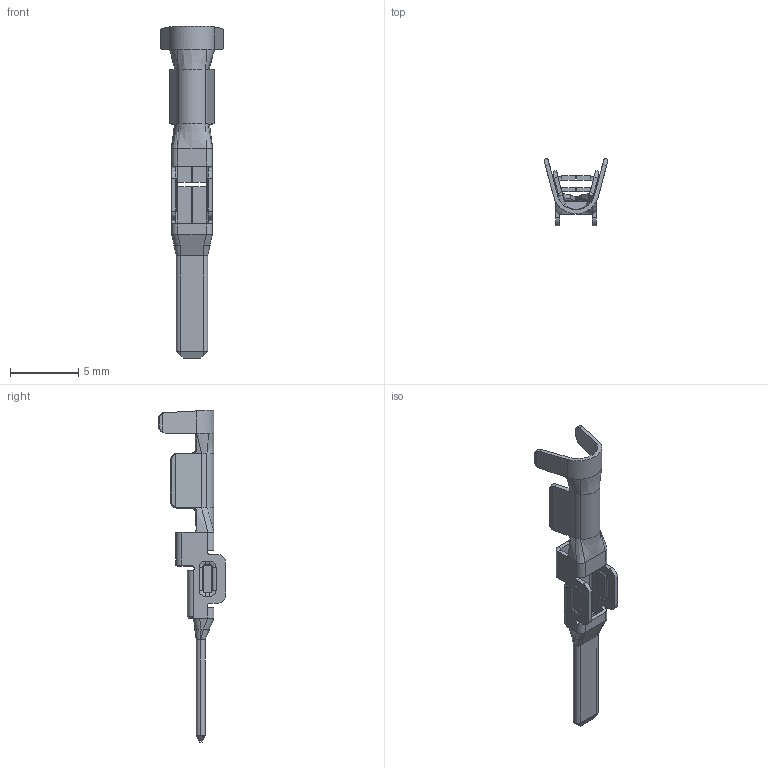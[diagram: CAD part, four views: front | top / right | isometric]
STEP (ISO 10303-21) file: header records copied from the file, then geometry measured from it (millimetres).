
FILE_DESCRIPTION((''),'2;1');
FILE_NAME('C-368087-1','2016-08-12T',('k06423'),(''),'PRO/ENGINEER BY PARAMETRIC TECHNOLOGY CORPORATION, 2012010','PRO/ENGINEER BY PARAMETRIC TECHNOLOGY CORPORATION, 2012010','');
FILE_SCHEMA(('CONFIG_CONTROL_DESIGN'));
Length unit declared in the file: millimetre
Products named in the file (1): C-368087-1
Bounding box: 4.6 x 4.93 x 24.4 mm (x, y, z)
Volume: 44.4 mm3; surface area: 331.7 mm2
Topology: 2 solids, 2 shells, 308 faces, 747 edges, 445 vertices
Faces by surface type: plane 128, bspline 82, cylinder 72, torus 18, cone 8
Entity records: 10792 total; most frequent: CARTESIAN_POINT 3986, ORIENTED_EDGE 1494, DIRECTION 1262, EDGE_CURVE 747, VERTEX_POINT 445, VECTOR 424, LINE 424, AXIS2_PLACEMENT_3D 419
